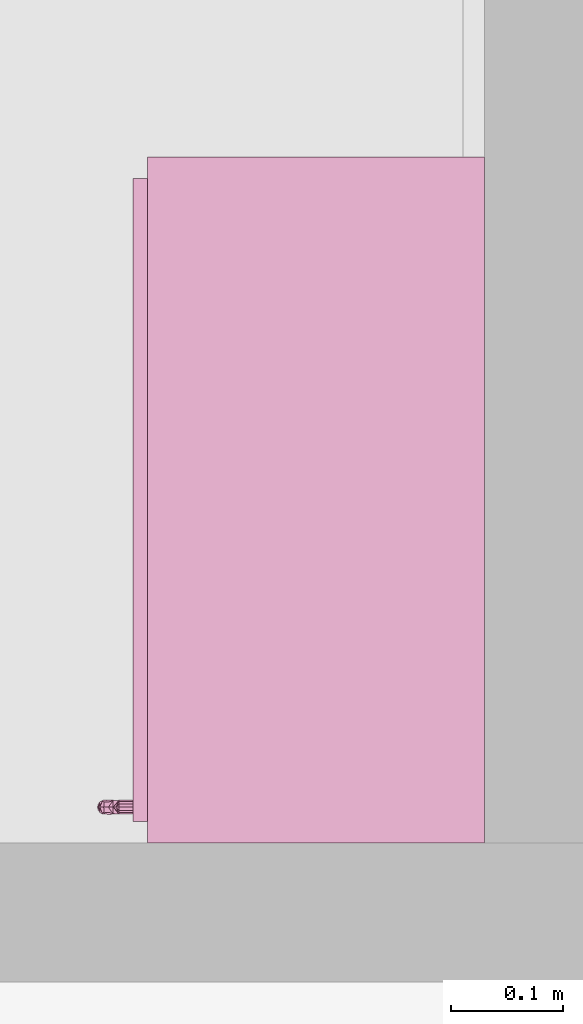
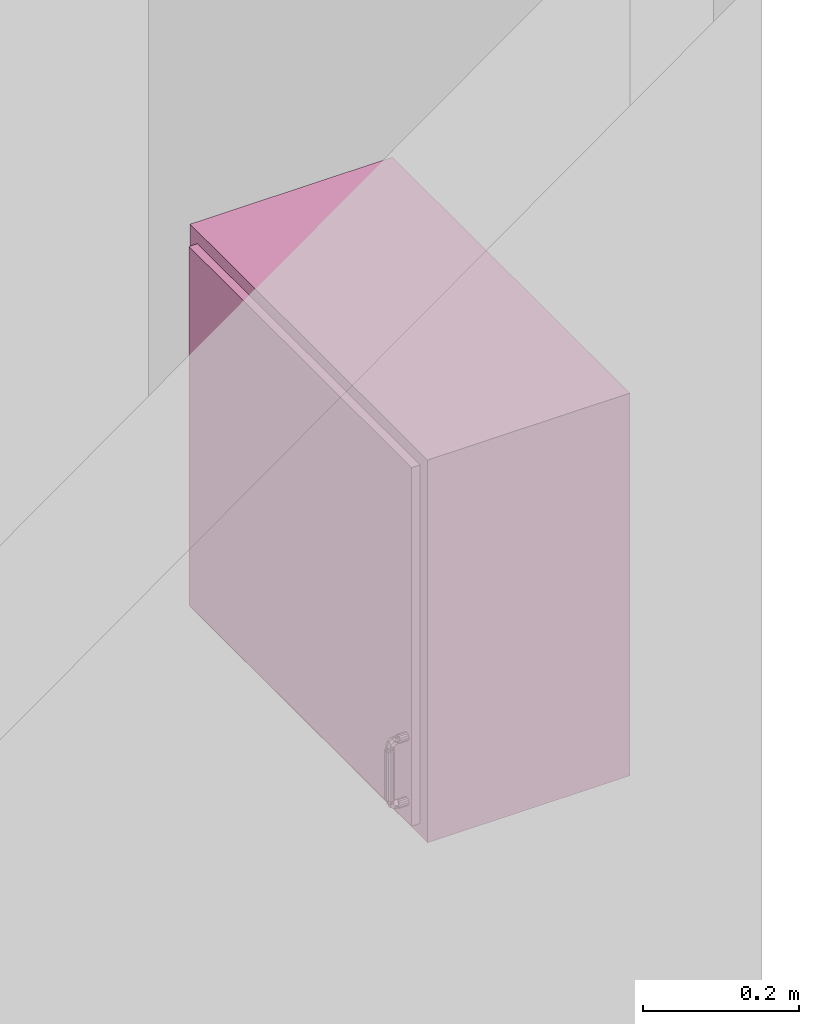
# One storey, part 87 of 87: 1 furnishing.
"""IFC2X3 building model written with IfcOpenShell, lengths in metres."""

from ifc_helpers import new_model, entity, si_unit, converted_unit, frame, origin, place, context, project, spatial, face_set, surface_model, source, transform, mapped, type_object, type_shapes, element, save


model = new_model("IFC2X3")

# Units and contexts
model_context = context("Model", 3, precision=1e-09, world=origin())
plan_context = context("Plan", 3, precision=1e-09, world=origin())
ifc_project = project(units=[si_unit("LENGTHUNIT", "METRE"), si_unit("AREAUNIT", "SQUARE_METRE"), si_unit("VOLUMEUNIT", "CUBIC_METRE"), converted_unit("PLANEANGLEUNIT", "DEGREE", entity("IfcRatioMeasure", 0.01745329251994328), si_unit("PLANEANGLEUNIT", "RADIAN"), dimensions=[0, 0, 0, 0, 0, 0, 0]), si_unit("TIMEUNIT", "SECOND")], contexts=[model_context, plan_context])

# Site, building, storey, space
site_placement = place(None, origin())
site = spatial("IfcSite", under=ifc_project, at=site_placement, Name="Default", CompositionType="ELEMENT")
building_placement = place(site_placement, origin())
building = spatial("IfcBuilding", under=site, at=building_placement, CompositionType="ELEMENT")
storey_placement = place(building_placement, origin())
storey = spatial("IfcBuildingStorey", under=building, at=storey_placement, Name="First Floor", CompositionType="ELEMENT", Elevation=-3.531500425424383e-13)
space_placement = place(storey_placement, origin())
space = spatial("IfcSpace", under=storey, at=space_placement, Name="1A10", CompositionType="ELEMENT", InteriorOrExteriorSpace="INTERNAL")

# Furnishing
furniture_type = type_object("IfcFurnitureType", Name="610mm", AssemblyPlace="NOTDEFINED")
shared_shape = source(origin(), model_context, "Body", "SurfaceModel", [
    surface_model("IfcFaceBasedSurfaceModel", [(0.03175000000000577, 0.3127000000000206, 0.1587500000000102), (0.02899483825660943, 0.3127000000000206, 0.1581211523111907), (0.02678537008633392, 0.3127000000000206, 0.1563591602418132), (0.02555920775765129, 0.3127000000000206, 0.1538130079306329), (0.02555920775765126, 0.3127000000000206, 0.1509869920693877), (0.02678537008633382, 0.3127000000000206, 0.1484408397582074), (0.0289948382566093, 0.3127000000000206, 0.1466788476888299), (0.03175000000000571, 0.3127000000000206, 0.1460500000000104), (0.03450516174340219, 0.3127000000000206, 0.1466788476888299), (0.03671462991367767, 0.3127000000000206, 0.1484408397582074), (0.03794079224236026, 0.3127000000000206, 0.1509869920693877), (0.03794079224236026, 0.3127000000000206, 0.1538130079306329), (0.0367146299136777, 0.3127000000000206, 0.1563591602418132), (0.03450516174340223, 0.3127000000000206, 0.1581211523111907), (0.03450515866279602, 0.3253999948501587, 0.1466788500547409), (0.03175000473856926, 0.3253999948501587, 0.1460499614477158), (0.03671463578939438, 0.3253999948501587, 0.148440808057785), (0.03794079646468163, 0.3253999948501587, 0.1509870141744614), (0.03794079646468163, 0.3253999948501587, 0.1538130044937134), (0.03671463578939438, 0.3253999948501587, 0.1563592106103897), (0.03450515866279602, 0.3253999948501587, 0.1581211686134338), (0.03175000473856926, 0.3253999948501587, 0.158750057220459), (0.02899483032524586, 0.3253999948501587, 0.1581211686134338), (0.02678537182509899, 0.3253999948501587, 0.1563592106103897), (0.02555921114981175, 0.3253999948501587, 0.1538130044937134), (0.02555921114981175, 0.3253999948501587, 0.1509870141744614), (0.02678537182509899, 0.3253999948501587, 0.148440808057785), (0.02899483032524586, 0.3253999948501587, 0.1466788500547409), (0.03745412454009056, 0.3399335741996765, 0.1450594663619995), (0.03175000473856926, 0.3423450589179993, 0.1447817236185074), (0.03175000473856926, 0.3414763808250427, 0.1468789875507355), (0.03175000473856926, 0.3260352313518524, 0.1584868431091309), (0.03276963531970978, 0.3253999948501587, 0.1585172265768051), (0.03745412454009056, 0.3307594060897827, 0.1542336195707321), (0.03175000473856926, 0.3304817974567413, 0.1566451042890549), (0.03175000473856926, 0.3279408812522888, 0.1576975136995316), (0.03175000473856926, 0.3346760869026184, 0.1549077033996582), (0.03649551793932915, 0.3342043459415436, 0.1541480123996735), (0.03175000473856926, 0.3367732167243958, 0.1540390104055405), (0.03808517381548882, 0.3321700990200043, 0.1499286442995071), (0.03175000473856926, 0.3276450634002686, 0.1451200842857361), (0.03773659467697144, 0.3283230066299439, 0.1498709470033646), (0.03175000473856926, 0.3266704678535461, 0.1582237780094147), (0.03175000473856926, 0.3325789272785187, 0.1557763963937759), (0.03645839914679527, 0.3364695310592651, 0.1525502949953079), (0.03620198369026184, 0.338654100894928, 0.1507059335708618), (0.03175000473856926, 0.3388703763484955, 0.1531703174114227), (0.03276963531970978, 0.3442172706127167, 0.1397000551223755), (0.03175000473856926, 0.3441868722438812, 0.1403352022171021), (0.03175000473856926, 0.3439237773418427, 0.1409704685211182), (0.03671463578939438, 0.3341408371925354, 0.1397000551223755), (0.03773659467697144, 0.3355709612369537, 0.1426229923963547), (0.03175000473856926, 0.3317499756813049, 0.1397000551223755), (0.03450515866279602, 0.3323788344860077, 0.1397000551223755), (0.03450515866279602, 0.3438211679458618, 0.1397000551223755), (0.03175000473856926, 0.3433975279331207, 0.142240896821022), (0.03671463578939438, 0.3420591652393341, 0.1397000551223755), (0.03794079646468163, 0.3395130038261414, 0.1397000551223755), (0.03175000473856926, 0.3308200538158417, 0.1419451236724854), (0.03808517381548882, 0.3356286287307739, 0.1464701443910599), (0.03794079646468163, 0.3366869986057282, 0.1397000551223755), (0.03175000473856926, 0.3444499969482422, 0.1397000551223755), (0.03681673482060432, 0.3396477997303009, 0.1480762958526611), (0.03175000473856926, 0.3298901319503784, 0.1441901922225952), (0.03809325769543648, 0.3341734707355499, 0.1484735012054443), (0.03175000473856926, 0.339739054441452, 0.1510732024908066), (0.03175000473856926, 0.3406077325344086, 0.1489760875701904), (0.03073037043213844, 0.3253999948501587, 0.1585172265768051), (0.02604588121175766, 0.3307594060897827, 0.1542336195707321), (0.02604588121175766, 0.3399335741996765, 0.1450594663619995), (0.03073037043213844, 0.3442172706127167, 0.1397000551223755), (0.02576339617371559, 0.3283230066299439, 0.1498709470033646), (0.02576339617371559, 0.3355709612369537, 0.1426229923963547), (0.02899483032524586, 0.3438211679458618, 0.1397000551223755), (0.02729800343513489, 0.338654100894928, 0.1507059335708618), (0.02541483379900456, 0.3356286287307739, 0.1464701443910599), (0.0254067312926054, 0.3341734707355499, 0.1484735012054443), (0.02678537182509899, 0.3341408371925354, 0.1397000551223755), (0.02541483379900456, 0.3321700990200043, 0.1499286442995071), (0.02555921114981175, 0.3366869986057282, 0.1397000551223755), (0.02555921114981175, 0.3395130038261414, 0.1397000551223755), (0.02678537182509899, 0.3420591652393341, 0.1397000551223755), (0.0266832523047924, 0.3396477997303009, 0.1480762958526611), (0.02704160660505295, 0.3364695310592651, 0.1525502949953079), (0.02700448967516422, 0.3342043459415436, 0.1541480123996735), (0.02899483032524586, 0.3323788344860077, 0.1397000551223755), (0.03450515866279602, 0.3323788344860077, 0.0635000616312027), (0.03175000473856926, 0.3317499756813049, 0.0635000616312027), (0.03671463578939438, 0.3341408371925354, 0.0635000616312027), (0.03794079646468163, 0.3366869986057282, 0.0635000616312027), (0.03794079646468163, 0.3395130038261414, 0.0635000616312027), (0.03671463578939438, 0.3420591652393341, 0.0635000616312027), (0.03450515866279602, 0.3438211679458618, 0.0635000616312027), (0.03175000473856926, 0.3444499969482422, 0.0635000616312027), (0.02899483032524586, 0.3438211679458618, 0.0635000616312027), (0.02678537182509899, 0.3420591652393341, 0.0635000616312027), (0.02555921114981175, 0.3395130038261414, 0.0635000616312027), (0.02555921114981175, 0.3366869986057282, 0.0635000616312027), (0.02678537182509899, 0.3341408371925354, 0.0635000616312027), (0.02899483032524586, 0.3323788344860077, 0.0635000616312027), (0.03745412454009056, 0.3307594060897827, 0.04896649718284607), (0.03175000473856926, 0.3304817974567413, 0.04655487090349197), (0.03175000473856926, 0.3325789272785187, 0.04742357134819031), (0.03175000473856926, 0.3346760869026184, 0.04829226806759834), (0.03175000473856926, 0.3441868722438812, 0.06286478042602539), (0.03276963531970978, 0.3442172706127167, 0.0635000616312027), (0.03745412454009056, 0.3399335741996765, 0.05814050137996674), (0.03175000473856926, 0.3423450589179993, 0.05841824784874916), (0.03175000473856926, 0.3433975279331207, 0.06095908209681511), (0.03175000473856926, 0.3406077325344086, 0.05422388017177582), (0.03649551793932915, 0.3398480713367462, 0.05469565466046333), (0.03175000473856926, 0.339739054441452, 0.05212676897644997), (0.03808517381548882, 0.3356286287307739, 0.05672983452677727), (0.03175000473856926, 0.3308200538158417, 0.06125499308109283), (0.03773659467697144, 0.3355709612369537, 0.06057698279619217), (0.03175000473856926, 0.3439237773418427, 0.06222949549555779), (0.03175000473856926, 0.3414763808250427, 0.05632113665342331), (0.03645839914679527, 0.3382502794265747, 0.05243038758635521), (0.03620198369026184, 0.3364059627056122, 0.05024592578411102), (0.03175000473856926, 0.3388703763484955, 0.05002966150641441), (0.03276963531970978, 0.3253999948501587, 0.04468274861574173), (0.03175000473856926, 0.3260352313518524, 0.04471312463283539), (0.03175000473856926, 0.3266704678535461, 0.04497618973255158), (0.03773659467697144, 0.3283230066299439, 0.05332902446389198), (0.03671463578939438, 0.3253999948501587, 0.05475916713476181), (0.03450515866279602, 0.3253999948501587, 0.05652112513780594), (0.03175000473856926, 0.3253999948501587, 0.05715001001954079), (0.03450515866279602, 0.3253999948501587, 0.04507879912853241), (0.03175000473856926, 0.3279408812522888, 0.04550246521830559), (0.03671463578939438, 0.3253999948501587, 0.04684090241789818), (0.03794079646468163, 0.3253999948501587, 0.04938696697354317), (0.03175000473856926, 0.3276450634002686, 0.05807989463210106), (0.03809325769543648, 0.3341734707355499, 0.05472661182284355), (0.03808517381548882, 0.3321700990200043, 0.05327132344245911), (0.03175000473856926, 0.3298901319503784, 0.05900992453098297), (0.03794079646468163, 0.3253999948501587, 0.05221295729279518), (0.03175000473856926, 0.3253999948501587, 0.0444500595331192), (0.03681673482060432, 0.3337762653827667, 0.04925223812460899), (0.03175000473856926, 0.3367732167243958, 0.04916096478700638), (0.03073037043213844, 0.3442172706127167, 0.0635000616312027), (0.02604588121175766, 0.3399335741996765, 0.05814050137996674), (0.02604588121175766, 0.3307594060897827, 0.04896649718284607), (0.03073037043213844, 0.3253999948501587, 0.04468274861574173), (0.02576339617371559, 0.3355709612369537, 0.06057698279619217), (0.02576339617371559, 0.3283230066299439, 0.05332902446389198), (0.02899483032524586, 0.3253999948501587, 0.04507879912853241), (0.02729800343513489, 0.3364059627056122, 0.05024592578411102), (0.02541483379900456, 0.3321700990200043, 0.05327132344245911), (0.0254067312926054, 0.3341734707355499, 0.05472661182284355), (0.02678537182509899, 0.3253999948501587, 0.05475916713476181), (0.02555921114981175, 0.3253999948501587, 0.05221295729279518), (0.02555921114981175, 0.3253999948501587, 0.04938696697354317), (0.02678537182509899, 0.3253999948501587, 0.04684090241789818), (0.0266832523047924, 0.3337762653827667, 0.04925223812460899), (0.02541483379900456, 0.3356286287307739, 0.05672983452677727), (0.02704160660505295, 0.3382502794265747, 0.05243038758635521), (0.02700448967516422, 0.3398480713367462, 0.05469565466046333), (0.02899483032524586, 0.3253999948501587, 0.05652112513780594), (0.03175000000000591, 0.3127000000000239, 0.04444999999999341), (0.03450516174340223, 0.3127000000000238, 0.04507884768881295), (0.0367146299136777, 0.3127000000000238, 0.04684083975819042), (0.03794079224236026, 0.3127000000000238, 0.04938699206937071), (0.03794079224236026, 0.3127000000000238, 0.05221300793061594), (0.03671462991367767, 0.3127000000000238, 0.05475916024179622), (0.03450516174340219, 0.3127000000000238, 0.0565211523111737), (0.03175000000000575, 0.3127000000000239, 0.05714999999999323), (0.0289948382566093, 0.3127000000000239, 0.0565211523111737), (0.02678537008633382, 0.3127000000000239, 0.05475916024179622), (0.02555920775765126, 0.3127000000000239, 0.05221300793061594), (0.02555920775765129, 0.3127000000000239, 0.04938699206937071), (0.02678537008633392, 0.3127000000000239, 0.04684083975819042), (0.02899483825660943, 0.3127000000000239, 0.04507884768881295), (0.0190499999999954, 0.3127000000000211, 0.5809500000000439), (0.0190499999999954, 0.3127000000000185, 0.01905000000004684), (0.5909499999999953, 0.3127000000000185, 0.01905000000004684), (0.5909499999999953, 0.3127000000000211, 0.5809500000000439), (0.0190499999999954, 0.2809500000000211, 0.5809500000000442), (0.0190499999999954, 0.2809500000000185, 0.01905000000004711), (0.5909499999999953, 0.2809500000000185, 0.01905000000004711), (0.5909499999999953, 0.2809500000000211, 0.5809500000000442), (0.01905, 0.0, 0.5809499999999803), (0.01905, 0.0, 0.01904999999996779), (0.5909499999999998, 0.0, 0.01904999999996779), (0.5909499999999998, 0.0, 0.5809499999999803), (0.01905, 0.01905, 0.5809499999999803), (0.01905, 0.01905, 0.01904999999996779), (0.5909499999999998, 0.01905, 0.01904999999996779), (0.5909499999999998, 0.01905, 0.5809499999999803), (0.0, 0.0, 0.5999999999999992), (0.0, 0.0, 0.0), (0.6099999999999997, 0.0, 0.0), (0.6099999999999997, 0.0, 0.5999999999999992), (0.01905, 0.0, 0.5809499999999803), (0.5909499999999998, 0.0, 0.5809499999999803), (0.5909499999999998, 0.0, 0.01904999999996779), (0.01905, 0.0, 0.01904999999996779), (0.0, 0.2999999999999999, 0.5999999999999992), (0.0, 0.2999999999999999, 0.0), (0.6099999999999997, 0.2999999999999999, 0.0), (0.6099999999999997, 0.2999999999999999, 0.5999999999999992), (0.01905, 0.2999999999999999, 0.5809499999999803), (0.5909499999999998, 0.2999999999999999, 0.5809499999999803), (0.5909499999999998, 0.2999999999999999, 0.01904999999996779), (0.01905, 0.2999999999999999, 0.01904999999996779)], [face_set([[[0, 1, 2, 3, 4, 5, 6, 7, 8, 9, 10, 11, 12, 13]], [[8, 14, 15, 7]], [[9, 16, 14, 8]], [[10, 17, 16, 9]], [[10, 17, 18, 11]], [[11, 18, 19, 12]], [[12, 19, 20, 13]], [[13, 20, 21, 0]], [[0, 21, 22, 1]], [[1, 22, 23, 2]], [[2, 23, 24, 3]], [[3, 24, 25, 4]], [[5, 26, 25, 4]], [[6, 27, 26, 5]], [[7, 15, 27, 6]], [[28, 29, 30]], [[31, 21, 32]], [[18, 33, 34]], [[19, 35, 20]], [[36, 37, 38]], [[39, 40, 41]], [[32, 20, 42]], [[43, 34, 33, 36]], [[33, 18, 17]], [[44, 45, 46]], [[16, 17, 33]], [[34, 19, 18]], [[41, 14, 16]], [[47, 48, 49]], [[44, 38, 37]], [[28, 50, 51]], [[51, 52, 53]], [[49, 54, 47]], [[53, 50, 51]], [[55, 29, 56]], [[34, 35, 19]], [[38, 44, 46]], [[29, 57, 56]], [[54, 49, 55]], [[40, 15, 41]], [[32, 42, 31]], [[55, 56, 54]], [[20, 35, 42]], [[16, 41, 33]], [[58, 59, 51]], [[60, 28, 50]], [[47, 61, 48]], [[28, 60, 57]], [[62, 45, 59]], [[14, 41, 15]], [[37, 41, 39]], [[62, 51, 28]], [[58, 63, 59]], [[44, 37, 39]], [[40, 39, 63]], [[39, 64, 44]], [[44, 64, 45]], [[59, 51, 62]], [[62, 65, 45]], [[36, 33, 37]], [[41, 37, 33]], [[39, 64, 63]], [[45, 64, 59]], [[28, 66, 62]], [[64, 59, 63]], [[65, 62, 66]], [[65, 46, 45]], [[58, 51, 52]], [[29, 28, 57]], [[30, 66, 28]], [[67, 21, 31]], [[34, 24, 23]], [[68, 34, 43, 36]], [[69, 66, 30]], [[22, 35, 23]], [[70, 49, 48]], [[67, 31, 42]], [[27, 71, 26]], [[15, 71, 27]], [[58, 52, 72]], [[73, 55, 49]], [[22, 42, 35]], [[74, 75, 76]], [[69, 72, 77]], [[78, 71, 40]], [[26, 68, 25]], [[79, 69, 80]], [[29, 81, 80]], [[68, 25, 24]], [[70, 73, 49]], [[42, 22, 67]], [[82, 75, 74]], [[35, 34, 23]], [[58, 75, 63]], [[71, 26, 68]], [[77, 69, 79]], [[81, 55, 73]], [[29, 55, 81]], [[78, 63, 76]], [[48, 61, 70]], [[38, 83, 84]], [[69, 29, 80]], [[38, 84, 36]], [[38, 46, 83]], [[77, 85, 72]], [[69, 30, 29]], [[84, 71, 68]], [[40, 63, 78]], [[52, 72, 85]], [[82, 72, 75]], [[78, 84, 83]], [[40, 71, 15]], [[74, 83, 46]], [[76, 78, 83]], [[82, 65, 66]], [[82, 69, 72]], [[71, 84, 78]], [[68, 36, 84]], [[74, 76, 83]], [[63, 75, 76]], [[82, 74, 65]], [[66, 69, 82]], [[74, 46, 65]], [[75, 58, 72]], [[34, 68, 24]], [[53, 86, 87, 52]], [[50, 88, 86, 53]], [[50, 88, 89, 60]], [[60, 89, 90, 57]], [[57, 90, 91, 56]], [[56, 91, 92, 54]], [[54, 92, 93, 61]], [[61, 93, 94, 73]], [[73, 94, 95, 81]], [[81, 95, 96, 80]], [[80, 96, 97, 79]], [[79, 97, 98, 77]], [[85, 99, 98, 77]], [[52, 87, 99, 85]], [[100, 101, 102, 103]], [[104, 93, 105]], [[90, 106, 107]], [[91, 108, 92]], [[109, 110, 111]], [[112, 113, 114]], [[105, 92, 115]], [[106, 116, 107]], [[106, 90, 89]], [[117, 118, 119]], [[106, 89, 88]], [[107, 91, 90]], [[88, 86, 114]], [[120, 121, 122]], [[117, 111, 110]], [[123, 124, 100]], [[125, 126, 123]], [[122, 127, 120]], [[123, 124, 125]], [[128, 101, 129]], [[107, 108, 91]], [[111, 117, 119]], [[101, 130, 129]], [[127, 122, 128]], [[126, 131, 123]], [[113, 87, 114]], [[105, 115, 104]], [[128, 129, 127]], [[92, 108, 115]], [[106, 114, 88]], [[132, 133, 134]], [[124, 100, 135]], [[120, 136, 121]], [[100, 135, 130]], [[137, 118, 133]], [[87, 114, 86]], [[110, 114, 112]], [[137, 123, 100]], [[123, 131, 133]], [[117, 110, 112]], [[113, 112, 134]], [[112, 132, 117]], [[117, 132, 118]], [[133, 123, 137]], [[137, 138, 118]], [[109, 106, 110]], [[114, 110, 106]], [[112, 132, 134]], [[118, 132, 133]], [[100, 103, 137]], [[131, 134, 133]], [[138, 137, 103]], [[138, 119, 118]], [[106, 109, 116]], [[101, 100, 130]], [[139, 93, 104]], [[107, 96, 95]], [[140, 107, 116]], [[141, 103, 102, 101]], [[94, 108, 95]], [[142, 122, 121]], [[139, 104, 115]], [[98, 143, 99]], [[99, 143, 87]], [[131, 126, 144]], [[145, 128, 122]], [[94, 115, 108]], [[146, 147, 148]], [[149, 144, 141]], [[143, 87, 113]], [[97, 140, 98]], [[150, 141, 151]], [[101, 152, 151]], [[140, 97, 96]], [[142, 145, 122]], [[115, 94, 139]], [[153, 147, 146]], [[108, 107, 95]], [[131, 147, 134]], [[140, 98, 143]], [[150, 141, 149]], [[152, 128, 145]], [[101, 128, 152]], [[154, 134, 148]], [[121, 136, 142]], [[111, 155, 156]], [[141, 101, 151]], [[111, 156, 109]], [[111, 119, 155]], [[144, 157, 149]], [[156, 143, 140]], [[143, 113, 154]], [[157, 144, 126]], [[153, 144, 147]], [[113, 134, 154]], [[154, 156, 155]], [[146, 155, 119]], [[148, 154, 155]], [[153, 138, 103]], [[153, 141, 144]], [[143, 156, 154]], [[140, 109, 156]], [[146, 148, 155]], [[134, 147, 148]], [[153, 146, 138]], [[103, 141, 153]], [[146, 119, 138]], [[147, 131, 144]], [[107, 140, 96]], [[116, 109, 140]], [[158, 159, 160, 161, 162, 163, 164, 165, 166, 167, 168, 169, 170, 171]], [[125, 164, 165, 126]], [[124, 163, 164, 125]], [[135, 162, 163, 124]], [[135, 162, 161, 130]], [[130, 161, 160, 129]], [[129, 160, 159, 127]], [[127, 159, 158, 136]], [[136, 158, 171, 145]], [[145, 171, 170, 152]], [[152, 170, 169, 151]], [[151, 169, 168, 150]], [[149, 167, 168, 150]], [[157, 166, 167, 149]], [[126, 165, 166, 157]]]), face_set([[[172, 173, 174, 175]], [[176, 177, 178, 179]], [[175, 179, 176, 172]], [[174, 175, 179, 178]], [[173, 174, 178, 177]], [[172, 173, 177, 176]]]), face_set([[[180, 181, 182, 183]], [[184, 185, 186, 187]], [[181, 180, 184, 185]], [[182, 181, 185, 186]], [[183, 182, 186, 187]], [[180, 184, 187, 183]]]), face_set([[[188, 189, 190, 191], [192, 193, 194, 195]], [[196, 197, 198, 199], [200, 201, 202, 203]], [[189, 188, 196, 197]], [[190, 189, 197, 198]], [[191, 190, 198, 199]], [[188, 196, 199, 191]], [[193, 192, 200, 201]], [[194, 202, 201, 193]], [[195, 203, 202, 194]], [[192, 200, 203, 195]]])]),
])
type_shapes(furniture_type, [shared_shape])
furnishing_placement = place(space_placement, frame((-10.79400000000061, 44.11399999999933, 1.400000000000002), z_axis=(0.0, 0.0, 1.0), x_axis=(0.0, 1.0, 0.0)))
element("IfcFurnishingElement", 1, at=furnishing_placement, inside=space, type_object=furniture_type, Name="M_Upper Cabinet-Single Door-Wall:610mm:610mm", ObjectType="610mm", context=model_context, shape_type="MappedRepresentation", body=[
    mapped(shared_shape, transform((0.0, 0.0, 0.0), scale=1.0)),
])

save(model, "model.ifc")
